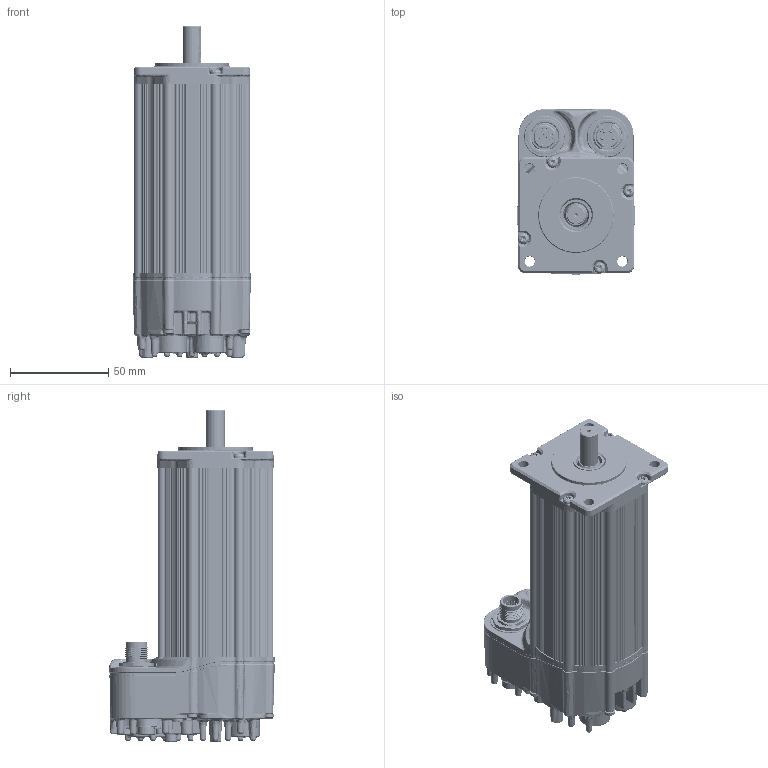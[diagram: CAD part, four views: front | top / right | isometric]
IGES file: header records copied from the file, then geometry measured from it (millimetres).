
Start section: SolidWorks IGES file using analytic representation for surfaces
Global section: file name: C:\TeknicPDM\EtherPath CPM-S\EtherPath CPM-S Customer Files\EC Customer Models\EC 234x.igs; native system: SolidWorks 2020; preprocessor: SolidWorks 2020; author: mike_berezny; date: 241009.131502; units: inch
Bounding box: 60.26 x 84.12 x 168.81 mm (x, y, z)
Surface area: 135998.6 mm2 (no closed solid volume)
Topology: 0 solids, 0 shells, 12112 faces, 108681 edges, 107885 vertices
Faces by surface type: bspline 6307, revolution 5805
